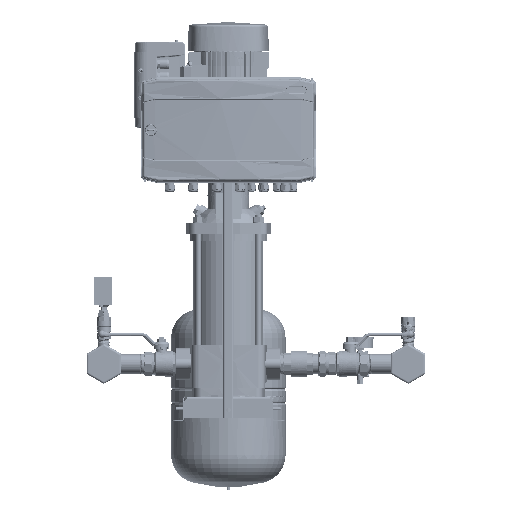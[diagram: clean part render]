
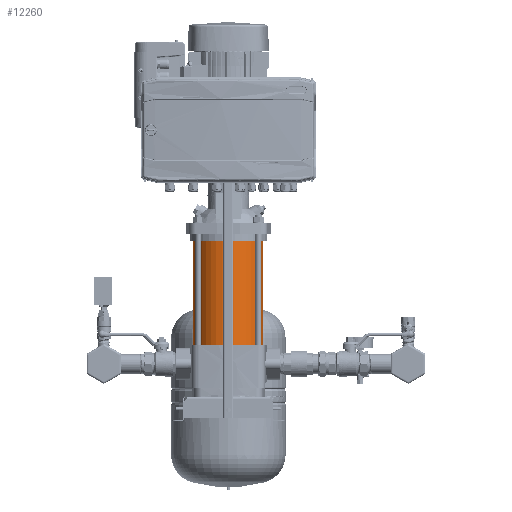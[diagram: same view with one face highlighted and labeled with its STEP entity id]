
A CAD part, left-side view. The second image highlights one B-rep face of the part: STEP entity #12260.
In plain terms, the highlighted cylindrical face has radius 85.35 mm (diameter 170.7 mm), a partial arc.
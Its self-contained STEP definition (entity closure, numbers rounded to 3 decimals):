
#12190=CARTESIAN_POINT('Axis2P3D Location',(284.,0.,0.)) ;
#12194=CARTESIAN_POINT('Vertex',(284.,-85.35,0.)) ;
#12196=CARTESIAN_POINT('Vertex',(284.,85.35,0.)) ;
#12217=CARTESIAN_POINT('Axis2P3D Location',(0.,0.,0.)) ;
#12222=CARTESIAN_POINT('Line Origine',(0.,-85.35,0.)) ;
#12226=CARTESIAN_POINT('Vertex',(0.,-85.35,0.)) ;
#12233=CARTESIAN_POINT('Vertex',(0.,85.35,0.)) ;
#12236=CARTESIAN_POINT('Line Origine',(0.,85.35,0.)) ;
#12249=CARTESIAN_POINT('Axis2P3D Location',(0.,0.,0.)) ;
#12224=VECTOR('Line Direction',#12223,1.) ;
#12238=VECTOR('Line Direction',#12237,1.) ;
#12191=DIRECTION('Axis2P3D Direction',(-1.,0.,0.)) ;
#12218=DIRECTION('Axis2P3D Direction',(1.,0.,0.)) ;
#12219=DIRECTION('Axis2P3D XDirection',(0.,-1.,0.)) ;
#12223=DIRECTION('Vector Direction',(1.,0.,0.)) ;
#12237=DIRECTION('Vector Direction',(1.,0.,0.)) ;
#12250=DIRECTION('Axis2P3D Direction',(1.,0.,0.)) ;
#12192=AXIS2_PLACEMENT_3D('Circle Axis2P3D',#12190,#12191,$) ;
#12220=AXIS2_PLACEMENT_3D('Cylinder Axis2P3D',#12217,#12218,#12219) ;
#12251=AXIS2_PLACEMENT_3D('Circle Axis2P3D',#12249,#12250,$) ;
#12225=LINE('Line',#12222,#12224) ;
#12239=LINE('Line',#12236,#12238) ;
#12193=CIRCLE('generated circle',#12192,85.35) ;
#12252=CIRCLE('generated circle',#12251,85.35) ;
#12221=CYLINDRICAL_SURFACE('generated cylinder',#12220,85.35) ;
#12198=EDGE_CURVE('',#12195,#12197,#12193,.T.) ;
#12228=EDGE_CURVE('',#12195,#12227,#12225,.F.) ;
#12240=EDGE_CURVE('',#12234,#12197,#12239,.T.) ;
#12253=EDGE_CURVE('',#12227,#12234,#12252,.F.) ;
#12255=ORIENTED_EDGE('',*,*,#12240,.F.) ;
#12256=ORIENTED_EDGE('',*,*,#12253,.F.) ;
#12257=ORIENTED_EDGE('',*,*,#12228,.F.) ;
#12258=ORIENTED_EDGE('',*,*,#12198,.T.) ;
#12254=EDGE_LOOP('',(#12255,#12256,#12257,#12258)) ;
#12195=VERTEX_POINT('',#12194) ;
#12197=VERTEX_POINT('',#12196) ;
#12227=VERTEX_POINT('',#12226) ;
#12234=VERTEX_POINT('',#12233) ;
#12260=ADVANCED_FACE('Solid1',(#12259),#12221,.T.) ;
#12259=FACE_OUTER_BOUND('',#12254,.T.) ;
